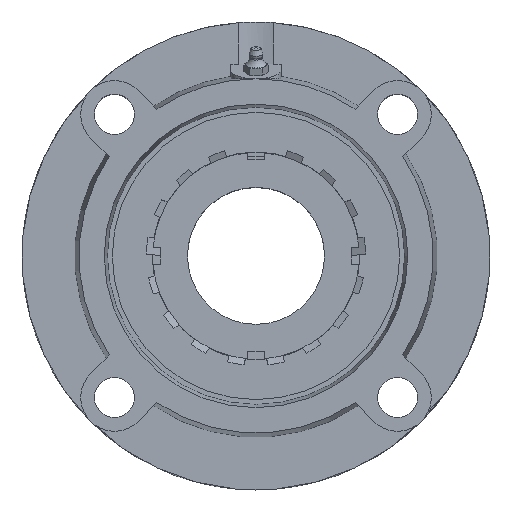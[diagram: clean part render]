
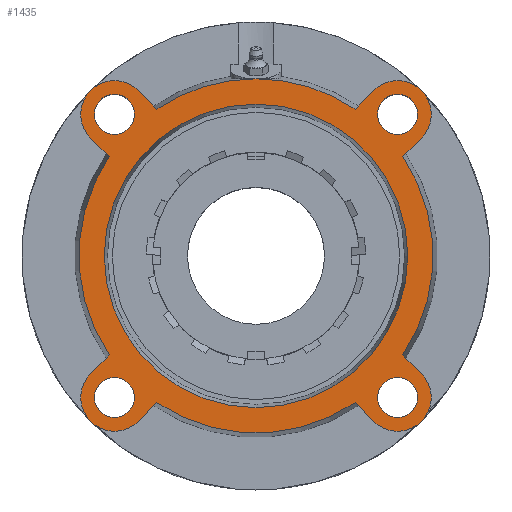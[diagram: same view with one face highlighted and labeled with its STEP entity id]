
A CAD part, top view. The second image highlights one B-rep face of the part: STEP entity #1435.
In plain terms, the highlighted planar face has unit normal (0, 0, 1).
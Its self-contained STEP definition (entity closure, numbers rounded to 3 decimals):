
#181=CARTESIAN_POINT('',(57.675,-67.175,23.));
#182=VERTEX_POINT('',#181);
#183=CARTESIAN_POINT('',(67.175,-67.175,23.));
#184=DIRECTION('',(0.0,0.0,-1.0));
#185=DIRECTION('',(1.0,0.0,0.0));
#186=AXIS2_PLACEMENT_3D('',#183,#184,#185);
#187=CIRCLE('',#186,9.5);
#188=EDGE_CURVE('',#182,#182,#187,.T.);
#209=CARTESIAN_POINT('',(-76.675,67.175,23.));
#210=VERTEX_POINT('',#209);
#211=CARTESIAN_POINT('',(-67.175,67.175,23.));
#212=DIRECTION('',(0.0,0.0,-1.0));
#213=DIRECTION('',(1.0,0.0,0.0));
#214=AXIS2_PLACEMENT_3D('',#211,#212,#213);
#215=CIRCLE('',#214,9.5);
#216=EDGE_CURVE('',#210,#210,#215,.T.);
#237=CARTESIAN_POINT('',(-76.675,-67.175,23.));
#238=VERTEX_POINT('',#237);
#239=CARTESIAN_POINT('',(-67.175,-67.175,23.));
#240=DIRECTION('',(0.0,0.0,-1.0));
#241=DIRECTION('',(1.0,0.0,0.0));
#242=AXIS2_PLACEMENT_3D('',#239,#240,#241);
#243=CIRCLE('',#242,9.5);
#244=EDGE_CURVE('',#238,#238,#243,.T.);
#265=CARTESIAN_POINT('',(57.675,67.175,23.));
#266=VERTEX_POINT('',#265);
#267=CARTESIAN_POINT('',(67.175,67.175,23.));
#268=DIRECTION('',(0.0,0.0,-1.0));
#269=DIRECTION('',(1.0,0.0,0.0));
#270=AXIS2_PLACEMENT_3D('',#267,#268,#269);
#271=CIRCLE('',#270,9.5);
#272=EDGE_CURVE('',#266,#266,#271,.T.);
#445=CARTESIAN_POINT('',(0.0,72.0,23.));
#446=VERTEX_POINT('',#445);
#447=CARTESIAN_POINT('',(0.0,0.,23.));
#448=DIRECTION('',(0.0,0.0,-1.0));
#449=DIRECTION('',(0.0,1.0,0.0));
#450=AXIS2_PLACEMENT_3D('',#447,#448,#449);
#451=CIRCLE('',#450,72.);
#452=EDGE_CURVE('',#446,#446,#451,.T.);
#714=CARTESIAN_POINT('',(0.,84.0,23.));
#715=VERTEX_POINT('',#714);
#837=CARTESIAN_POINT('',(-46.996,69.623,23.));
#838=VERTEX_POINT('',#837);
#852=CARTESIAN_POINT('',(0.0,0.,23.));
#853=DIRECTION('',(0.0,0.0,-1.0));
#854=DIRECTION('',(0.0,1.0,0.0));
#855=AXIS2_PLACEMENT_3D('',#852,#853,#854);
#856=CIRCLE('',#855,84.0);
#857=EDGE_CURVE('',#838,#715,#856,.T.);
#870=CARTESIAN_POINT('',(46.996,69.623,23.));
#871=VERTEX_POINT('',#870);
#872=CARTESIAN_POINT('',(0.0,0.,23.));
#873=DIRECTION('',(0.0,0.0,-1.0));
#874=DIRECTION('',(0.0,1.0,0.0));
#875=AXIS2_PLACEMENT_3D('',#872,#873,#874);
#876=CIRCLE('',#875,84.0);
#877=EDGE_CURVE('',#715,#871,#876,.T.);
#901=CARTESIAN_POINT('',(-69.623,46.996,23.));
#902=VERTEX_POINT('',#901);
#918=CARTESIAN_POINT('',(-78.489,55.861,23.));
#919=VERTEX_POINT('',#918);
#920=CARTESIAN_POINT('',(-69.623,46.996,23.));
#921=DIRECTION('',(-0.707,0.707,0.));
#922=VECTOR('',#921,12.538);
#923=LINE('',#920,#922);
#924=EDGE_CURVE('',#902,#919,#923,.T.);
#948=CARTESIAN_POINT('',(-46.996,-69.623,23.));
#949=VERTEX_POINT('',#948);
#965=CARTESIAN_POINT('',(-55.861,-78.489,23.));
#966=VERTEX_POINT('',#965);
#967=CARTESIAN_POINT('',(-46.996,-69.623,23.));
#968=DIRECTION('',(-0.707,-0.707,0.));
#969=VECTOR('',#968,12.538);
#970=LINE('',#967,#969);
#971=EDGE_CURVE('',#949,#966,#970,.T.);
#995=CARTESIAN_POINT('',(69.623,-46.996,23.));
#996=VERTEX_POINT('',#995);
#1012=CARTESIAN_POINT('',(78.489,-55.861,23.));
#1013=VERTEX_POINT('',#1012);
#1014=CARTESIAN_POINT('',(69.623,-46.996,23.));
#1015=DIRECTION('',(0.707,-0.707,0.));
#1016=VECTOR('',#1015,12.538);
#1017=LINE('',#1014,#1016);
#1018=EDGE_CURVE('',#996,#1013,#1017,.T.);
#1043=CARTESIAN_POINT('',(55.861,78.489,23.));
#1044=VERTEX_POINT('',#1043);
#1045=CARTESIAN_POINT('',(46.996,69.623,23.));
#1046=DIRECTION('',(0.707,0.707,0.));
#1047=VECTOR('',#1046,12.538);
#1048=LINE('',#1045,#1047);
#1049=EDGE_CURVE('',#871,#1044,#1048,.T.);
#1068=CARTESIAN_POINT('',(46.996,-69.623,23.));
#1069=VERTEX_POINT('',#1068);
#1091=CARTESIAN_POINT('',(55.861,-78.489,23.));
#1092=VERTEX_POINT('',#1091);
#1099=CARTESIAN_POINT('',(55.861,-78.489,23.));
#1100=DIRECTION('',(-0.707,0.707,0.0));
#1101=VECTOR('',#1100,12.538);
#1102=LINE('',#1099,#1101);
#1103=EDGE_CURVE('',#1092,#1069,#1102,.T.);
#1113=CARTESIAN_POINT('',(-78.489,-55.861,23.));
#1114=VERTEX_POINT('',#1113);
#1115=CARTESIAN_POINT('',(-67.175,-67.175,23.0));
#1116=DIRECTION('',(0.0,0.0,-1.0));
#1117=DIRECTION('',(-0.645,0.764,0.0));
#1118=AXIS2_PLACEMENT_3D('',#1115,#1116,#1117);
#1119=CIRCLE('',#1118,16.);
#1120=EDGE_CURVE('',#966,#1114,#1119,.T.);
#1155=CARTESIAN_POINT('',(-69.623,-46.996,23.));
#1156=VERTEX_POINT('',#1155);
#1177=CARTESIAN_POINT('',(-78.489,-55.861,23.));
#1178=DIRECTION('',(0.707,0.707,0.0));
#1179=VECTOR('',#1178,12.538);
#1180=LINE('',#1177,#1179);
#1181=EDGE_CURVE('',#1114,#1156,#1180,.T.);
#1191=CARTESIAN_POINT('',(-55.861,78.489,23.));
#1192=VERTEX_POINT('',#1191);
#1193=CARTESIAN_POINT('',(-67.175,67.175,23.0));
#1194=DIRECTION('',(0.0,0.0,-1.0));
#1195=DIRECTION('',(0.764,0.645,0.0));
#1196=AXIS2_PLACEMENT_3D('',#1193,#1194,#1195);
#1197=CIRCLE('',#1196,16.);
#1198=EDGE_CURVE('',#919,#1192,#1197,.T.);
#1226=CARTESIAN_POINT('',(-55.861,78.489,23.));
#1227=DIRECTION('',(0.707,-0.707,0.0));
#1228=VECTOR('',#1227,12.538);
#1229=LINE('',#1226,#1228);
#1230=EDGE_CURVE('',#1192,#838,#1229,.T.);
#1240=CARTESIAN_POINT('',(78.489,55.861,23.));
#1241=VERTEX_POINT('',#1240);
#1242=CARTESIAN_POINT('',(67.175,67.175,23.0));
#1243=DIRECTION('',(0.0,0.0,-1.0));
#1244=DIRECTION('',(0.645,-0.764,0.0));
#1245=AXIS2_PLACEMENT_3D('',#1242,#1243,#1244);
#1246=CIRCLE('',#1245,16.);
#1247=EDGE_CURVE('',#1044,#1241,#1246,.T.);
#1276=CARTESIAN_POINT('',(69.623,46.996,23.));
#1277=VERTEX_POINT('',#1276);
#1298=CARTESIAN_POINT('',(78.489,55.861,23.));
#1299=DIRECTION('',(-0.707,-0.707,0.0));
#1300=VECTOR('',#1299,12.538);
#1301=LINE('',#1298,#1300);
#1302=EDGE_CURVE('',#1241,#1277,#1301,.T.);
#1312=CARTESIAN_POINT('',(67.175,-67.175,23.0));
#1313=DIRECTION('',(0.0,0.0,-1.0));
#1314=DIRECTION('',(-0.764,-0.645,0.0));
#1315=AXIS2_PLACEMENT_3D('',#1312,#1313,#1314);
#1316=CIRCLE('',#1315,16.);
#1317=EDGE_CURVE('',#1013,#1092,#1316,.T.);
#1378=CARTESIAN_POINT('',(0.0,42.0,23.));
#1379=DIRECTION('',(0.0,0.0,1.0));
#1380=DIRECTION('',(1.0,0.0,0.0));
#1381=AXIS2_PLACEMENT_3D('',#1378,#1379,#1380);
#1382=PLANE('',#1381);
#1383=CARTESIAN_POINT('',(0.0,0.,23.));
#1384=DIRECTION('',(0.0,0.0,-1.0));
#1385=DIRECTION('',(0.0,1.0,0.0));
#1386=AXIS2_PLACEMENT_3D('',#1383,#1384,#1385);
#1387=CIRCLE('',#1386,84.0);
#1388=EDGE_CURVE('',#1069,#949,#1387,.T.);
#1389=ORIENTED_EDGE('',*,*,#1388,.F.);
#1390=ORIENTED_EDGE('',*,*,#1103,.F.);
#1391=ORIENTED_EDGE('',*,*,#1317,.F.);
#1392=ORIENTED_EDGE('',*,*,#1018,.F.);
#1393=CARTESIAN_POINT('',(0.0,0.,23.));
#1394=DIRECTION('',(0.0,0.0,-1.0));
#1395=DIRECTION('',(0.0,1.0,0.0));
#1396=AXIS2_PLACEMENT_3D('',#1393,#1394,#1395);
#1397=CIRCLE('',#1396,84.0);
#1398=EDGE_CURVE('',#1277,#996,#1397,.T.);
#1399=ORIENTED_EDGE('',*,*,#1398,.F.);
#1400=ORIENTED_EDGE('',*,*,#1302,.F.);
#1401=ORIENTED_EDGE('',*,*,#1247,.F.);
#1402=ORIENTED_EDGE('',*,*,#1049,.F.);
#1403=ORIENTED_EDGE('',*,*,#877,.F.);
#1404=ORIENTED_EDGE('',*,*,#857,.F.);
#1405=ORIENTED_EDGE('',*,*,#1230,.F.);
#1406=ORIENTED_EDGE('',*,*,#1198,.F.);
#1407=ORIENTED_EDGE('',*,*,#924,.F.);
#1408=CARTESIAN_POINT('',(0.0,0.,23.));
#1409=DIRECTION('',(0.0,0.0,-1.0));
#1410=DIRECTION('',(0.0,1.0,0.0));
#1411=AXIS2_PLACEMENT_3D('',#1408,#1409,#1410);
#1412=CIRCLE('',#1411,84.0);
#1413=EDGE_CURVE('',#1156,#902,#1412,.T.);
#1414=ORIENTED_EDGE('',*,*,#1413,.F.);
#1415=ORIENTED_EDGE('',*,*,#1181,.F.);
#1416=ORIENTED_EDGE('',*,*,#1120,.F.);
#1417=ORIENTED_EDGE('',*,*,#971,.F.);
#1418=EDGE_LOOP('',(#1389,#1390,#1391,#1392,#1399,#1400,#1401,#1402,#1403,#1404,#1405,#1406,#1407,#1414,#1415,#1416,#1417));
#1419=FACE_OUTER_BOUND('',#1418,.T.);
#1420=ORIENTED_EDGE('',*,*,#188,.T.);
#1421=EDGE_LOOP('',(#1420));
#1422=FACE_BOUND('',#1421,.T.);
#1423=ORIENTED_EDGE('',*,*,#216,.T.);
#1424=EDGE_LOOP('',(#1423));
#1425=FACE_BOUND('',#1424,.T.);
#1426=ORIENTED_EDGE('',*,*,#244,.T.);
#1427=EDGE_LOOP('',(#1426));
#1428=FACE_BOUND('',#1427,.T.);
#1429=ORIENTED_EDGE('',*,*,#272,.T.);
#1430=EDGE_LOOP('',(#1429));
#1431=FACE_BOUND('',#1430,.T.);
#1432=ORIENTED_EDGE('',*,*,#452,.T.);
#1433=EDGE_LOOP('',(#1432));
#1434=FACE_BOUND('',#1433,.T.);
#1435=ADVANCED_FACE('',(#1419,#1422,#1425,#1428,#1431,#1434),#1382,.T.);
